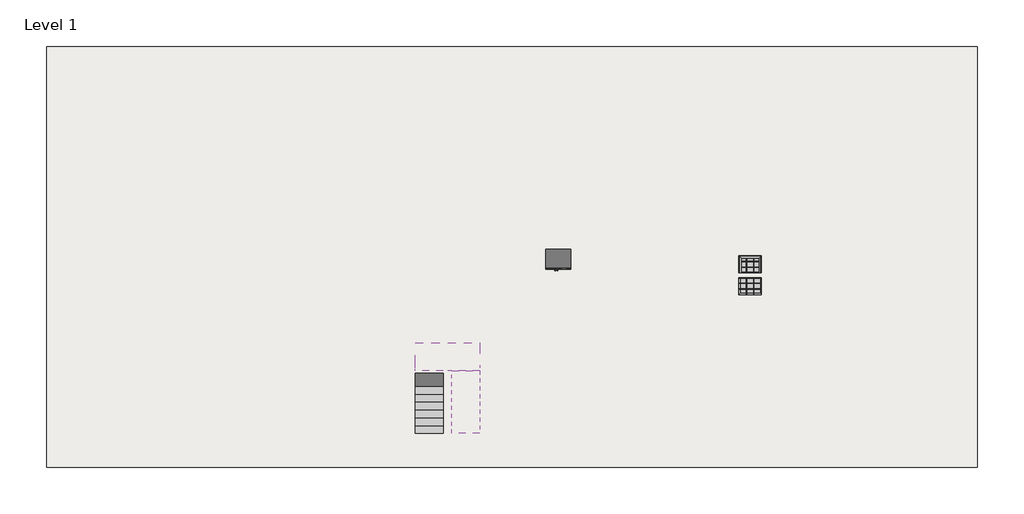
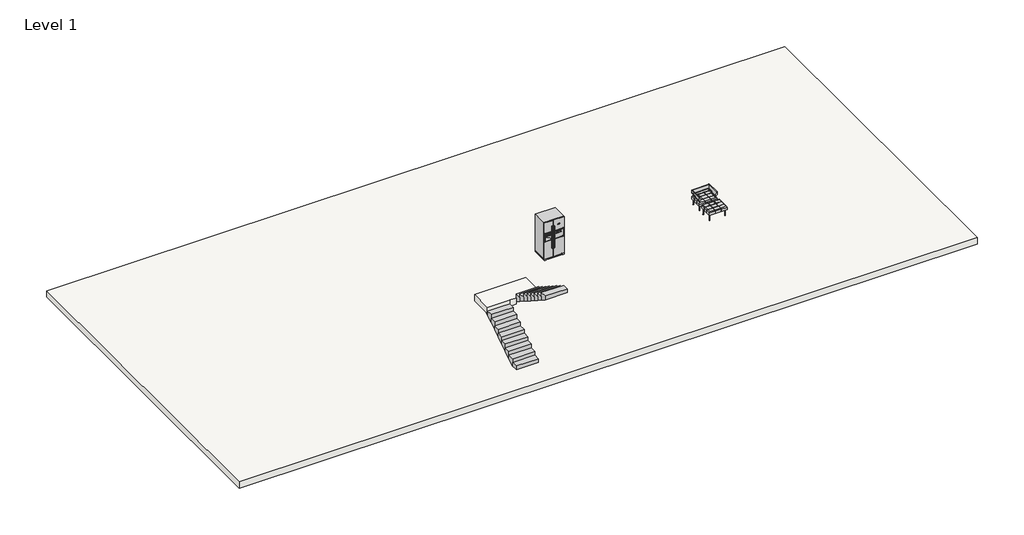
# One storey, incomplete: 2 furniture elements, 2 slabs, 2 stair flights, 1 proxy.
"""IFC4 building model written with IfcOpenShell, lengths in millimetres."""

from ifc_helpers import new_model, si_unit, frame, origin, place, context, project, spatial, polyline, outline, extrude, faceted_brep, transform, mapped, element, save
from components import white_40978c59, contemporary_bench_aus_ottoman_80d4fd55, contemporary_seating_aus_armchair_88942494, contemporary_seating_aus_armchair_13fb45e9

model = new_model("IFC4")

# Units and contexts
model_context = context("Model", 3, world=origin())
ifc_project = project(units=[si_unit("LENGTHUNIT", "METRE", prefix="MILLI")], contexts=[model_context])

# Site, building, storey
site = spatial("IfcSite", under=ifc_project)
building = spatial("IfcBuilding", under=site)
storey = spatial("IfcBuildingStorey", under=building, Name="Level 1", Elevation=0.0)

# Proxy
placement = place(None, origin())
white_shape = white_40978c59(model_context)
element("IfcBuildingElementProxy", 1, Name="Blocks_Side by Side Refrigerator_F02335EN : White", ObjectType="Blocks_Side by Side Refrigerator_F02335EN : White", at=placement, inside=storey, context=model_context, shape_type="MappedRepresentation", body=[
    mapped(white_shape, transform((23774.8594645, 76.3604949, 0.0), x_axis=(1.0, 0.0, 0.0), y_axis=(0.0, 1.0, 0.0), z_axis=(0.0, 0.0, 1.0))),
])

# Furniture
contemporary_bench_aus_ottoman_shape = contemporary_bench_aus_ottoman_80d4fd55(model_context)
element("IfcFurniture", 2, ObjectType="Contemporary Bench (AUS) : Ottoman", at=placement, inside=storey, context=model_context, shape_type="MappedRepresentation", body=[
    mapped(contemporary_bench_aus_ottoman_shape, transform((30495.5986465, -933.2282161, 0.0), x_axis=(1.0, 0.0, 0.0), y_axis=(0.0, 1.0, 0.0), z_axis=(0.0, 0.0, 1.0))),
])
contemporary_seating_aus_armchair_shape = contemporary_seating_aus_armchair_88942494(model_context)
contemporary_seating_aus_armchair_2_shape = contemporary_seating_aus_armchair_13fb45e9(model_context)
element("IfcFurniture", 3, ObjectType="Contemporary Seating (AUS) : Armchair", at=placement, inside=storey, context=model_context, shape_type="MappedRepresentation", body=[
    mapped(contemporary_seating_aus_armchair_shape, transform((30495.5986465, -155.1312479, 0.0), x_axis=(1.0, 0.0, 0.0), y_axis=(0.0, 1.0, 0.0), z_axis=(0.0, 0.0, 1.0))),
    mapped(contemporary_seating_aus_armchair_2_shape, transform((30495.5986465, -155.1312479, 0.0), x_axis=(1.0, 0.0, 0.0), y_axis=(0.0, 1.0, 0.0), z_axis=(0.0, 0.0, 1.0))),
])

# Slabs
element("IfcSlab", 4, ObjectType="300 mm Thickness", at=placement, inside=storey, context=model_context, shape_type="Brep", body=[
    faceted_brep([(18674.8594645, -4243.6395051, 1613.6470588), (19674.8594645, -4243.6395051, 1613.6470588), (19974.8594645, -4243.6395051, 1613.6470588), (20974.8594645, -4243.6395051, 1613.6470588), (20974.8594645, -4053.2973641, 1613.6470588), (20974.8594645, -3243.6395051, 1613.6470588), (18674.8594645, -3243.6395051, 1613.6470588), (18674.8594645, -4153.9816462, 1613.6470588), (18674.8594645, -4243.6395051, 1434.3529412), (18674.8594645, -4243.6395051, 1256.235892), (19674.8594645, -4243.6395051, 1256.235892), (19674.8594645, -4243.6395051, 1313.6470588), (19974.8594645, -4243.6395051, 1313.6470588), (19974.8594645, -4243.6395051, 1435.5300096), (20974.8594645, -4243.6395051, 1435.5300096), (20974.8594645, -4053.2973641, 1313.6470588), (20974.8594645, -3243.6395051, 1313.6470588), (18674.8594645, -3243.6395051, 1313.6470588), (18674.8594645, -4153.9816462, 1313.6470588), (19974.8594645, -4053.2973641, 1313.6470588), (19674.8594645, -4153.9816462, 1313.6470588)], [[[0, 1, 2, 3, 4, 5, 6, 7]], [[1, 0, 8, 9, 10, 11]], [[2, 1, 11, 12, 13]], [[3, 2, 13, 14]], [[3, 14, 15, 16, 5, 4]], [[6, 5, 16, 17]], [[9, 8, 0, 7, 6, 17, 18]], [[19, 12, 11, 20, 18, 17, 16, 15]], [[12, 19, 13]], [[18, 20, 10, 9]], [[20, 11, 10]], [[19, 15, 14, 13]]]),
])
element("IfcSlab", 5, ObjectType="FLOOR 1", at=placement, inside=storey, context=model_context, shape_type="SweptSolid", body=[
    extrude(outline(polyline([(5522.4313172, 7313.0661208), (38722.4313172, 7313.0661208), (38722.4313172, -7686.9338792), (5522.4313172, -7686.9338792), (5522.4313172, 7313.0661208)])), frame((0.0, 0.0, -300.0), z_axis=(0.0, 0.0, 1.0), x_axis=(1.0, 0.0, 0.0)), (0.0, 0.0, 1.0), 300.0),
])

# Stair flights
element("IfcStairFlight", 6, ObjectType="Monolithic Run", at=placement, inside=storey, context=model_context, shape_type="Brep", body=[
    faceted_brep([(18674.8594645, -6203.6395051, 179.2941176), (18674.8594645, -6483.6395051, 179.2941176), (19674.8594645, -6483.6395051, 179.2941176), (19674.8594645, -6203.6395051, 179.2941176), (18674.8594645, -6203.6395051, 1.1770685), (18674.8594645, -6205.4777091, 0.0), (18674.8594645, -6483.6395051, 0.0), (19674.8594645, -6483.6395051, 0.0), (19674.8594645, -6205.4777091, 0.0), (19674.8594645, -6203.6395051, 1.1770685), (18674.8594645, -5923.6395051, 358.5882353), (18674.8594645, -6203.6395051, 358.5882353), (19674.8594645, -6203.6395051, 358.5882353), (19674.8594645, -5923.6395051, 358.5882353), (18674.8594645, -5923.6395051, 180.4711861), (19674.8594645, -5923.6395051, 180.4711861), (18674.8594645, -5643.6395051, 537.8823529), (18674.8594645, -5923.6395051, 537.8823529), (19674.8594645, -5923.6395051, 537.8823529), (19674.8594645, -5643.6395051, 537.8823529), (18674.8594645, -5643.6395051, 359.7653037), (19674.8594645, -5643.6395051, 359.7653037), (18674.8594645, -5363.6395051, 717.1764706), (18674.8594645, -5643.6395051, 717.1764706), (19674.8594645, -5643.6395051, 717.1764706), (19674.8594645, -5363.6395051, 717.1764706), (18674.8594645, -5363.6395051, 539.0594214), (19674.8594645, -5363.6395051, 539.0594214), (18674.8594645, -5083.6395051, 896.4705882), (18674.8594645, -5363.6395051, 896.4705882), (19674.8594645, -5363.6395051, 896.4705882), (19674.8594645, -5083.6395051, 896.4705882), (18674.8594645, -5083.6395051, 718.353539), (19674.8594645, -5083.6395051, 718.353539), (18674.8594645, -4803.6395051, 1075.7647059), (18674.8594645, -5083.6395051, 1075.7647059), (19674.8594645, -5083.6395051, 1075.7647059), (19674.8594645, -4803.6395051, 1075.7647059), (18674.8594645, -4803.6395051, 897.6476567), (19674.8594645, -4803.6395051, 897.6476567), (18674.8594645, -4523.6395051, 1255.0588235), (18674.8594645, -4803.6395051, 1255.0588235), (19674.8594645, -4803.6395051, 1255.0588235), (19674.8594645, -4523.6395051, 1255.0588235), (18674.8594645, -4523.6395051, 1076.9417743), (19674.8594645, -4523.6395051, 1076.9417743), (18674.8594645, -4243.6395051, 1434.3529412), (18674.8594645, -4523.6395051, 1434.3529412), (19674.8594645, -4523.6395051, 1434.3529412), (19674.8594645, -4243.6395051, 1434.3529412), (18674.8594645, -4243.6395051, 1256.235892), (19674.8594645, -4243.6395051, 1256.235892), (19674.8594645, -4243.6395051, 1313.6470588)], [[[0, 1, 2, 3]], [[1, 0, 4, 5, 6]], [[2, 1, 6, 7]], [[3, 2, 7, 8, 9]], [[10, 11, 12, 13]], [[11, 10, 14, 4, 0]], [[0, 3, 12, 11]], [[13, 12, 3, 9, 15]], [[16, 17, 18, 19]], [[17, 16, 20, 14, 10]], [[10, 13, 18, 17]], [[19, 18, 13, 15, 21]], [[22, 23, 24, 25]], [[23, 22, 26, 20, 16]], [[16, 19, 24, 23]], [[25, 24, 19, 21, 27]], [[28, 29, 30, 31]], [[29, 28, 32, 26, 22]], [[22, 25, 30, 29]], [[31, 30, 25, 27, 33]], [[34, 35, 36, 37]], [[35, 34, 38, 32, 28]], [[28, 31, 36, 35]], [[37, 36, 31, 33, 39]], [[40, 41, 42, 43]], [[41, 40, 44, 38, 34]], [[34, 37, 42, 41]], [[43, 42, 37, 39, 45]], [[46, 47, 48, 49]], [[47, 46, 50, 44, 40]], [[40, 43, 48, 47]], [[49, 48, 43, 45, 51, 52]], [[46, 49, 52, 51, 50]], [[7, 6, 5, 8]], [[8, 5, 4, 14, 20, 26, 32, 38, 44, 50, 51, 45, 39, 33, 27, 21, 15, 9]]]),
])
element("IfcStairFlight", 7, ObjectType="Monolithic Run", at=placement, inside=storey, context=model_context, shape_type="Brep", body=[
    faceted_brep([(20974.8594645, -4523.6395051, 1792.9411765), (20974.8594645, -4243.6395051, 1792.9411765), (19974.8594645, -4243.6395051, 1792.9411765), (19974.8594645, -4523.6395051, 1792.9411765), (20974.8594645, -4523.6395051, 1614.8241273), (20974.8594645, -4243.6395051, 1435.5300096), (20974.8594645, -4243.6395051, 1613.6470588), (19974.8594645, -4243.6395051, 1435.5300096), (19974.8594645, -4523.6395051, 1614.8241273), (20974.8594645, -4803.6395051, 1972.2352941), (20974.8594645, -4523.6395051, 1972.2352941), (19974.8594645, -4523.6395051, 1972.2352941), (19974.8594645, -4803.6395051, 1972.2352941), (20974.8594645, -4803.6395051, 1794.1182449), (19974.8594645, -4803.6395051, 1794.1182449), (20974.8594645, -5083.6395051, 2151.5294118), (20974.8594645, -4803.6395051, 2151.5294118), (19974.8594645, -4803.6395051, 2151.5294118), (19974.8594645, -5083.6395051, 2151.5294118), (20974.8594645, -5083.6395051, 1973.4123626), (19974.8594645, -5083.6395051, 1973.4123626), (20974.8594645, -5363.6395051, 2330.8235294), (20974.8594645, -5083.6395051, 2330.8235294), (19974.8594645, -5083.6395051, 2330.8235294), (19974.8594645, -5363.6395051, 2330.8235294), (20974.8594645, -5363.6395051, 2152.7064802), (19974.8594645, -5363.6395051, 2152.7064802), (20974.8594645, -5643.6395051, 2510.1176471), (20974.8594645, -5363.6395051, 2510.1176471), (19974.8594645, -5363.6395051, 2510.1176471), (19974.8594645, -5643.6395051, 2510.1176471), (20974.8594645, -5643.6395051, 2332.0005979), (19974.8594645, -5643.6395051, 2332.0005979), (20974.8594645, -5923.6395051, 2689.4117647), (20974.8594645, -5643.6395051, 2689.4117647), (19974.8594645, -5643.6395051, 2689.4117647), (19974.8594645, -5923.6395051, 2689.4117647), (20974.8594645, -5923.6395051, 2511.2947155), (19974.8594645, -5923.6395051, 2511.2947155), (20974.8594645, -6203.6395051, 2868.7058824), (20974.8594645, -5923.6395051, 2868.7058824), (19974.8594645, -5923.6395051, 2868.7058824), (19974.8594645, -6203.6395051, 2868.7058824), (20974.8594645, -6203.6395051, 2690.5888332), (19974.8594645, -6203.6395051, 2690.5888332), (20974.8594645, -6483.6395051, 3048.0), (20974.8594645, -6203.6395051, 3048.0), (19974.8594645, -6203.6395051, 3048.0), (19974.8594645, -6483.6395051, 3048.0), (20974.8594645, -6483.6395051, 2869.8829508), (19974.8594645, -6483.6395051, 2869.8829508)], [[[0, 1, 2, 3]], [[1, 0, 4, 5, 6]], [[2, 1, 6, 5, 7]], [[3, 2, 7, 8]], [[9, 10, 11, 12]], [[10, 9, 13, 4, 0]], [[11, 10, 0, 3]], [[12, 11, 3, 8, 14]], [[15, 16, 17, 18]], [[16, 15, 19, 13, 9]], [[17, 16, 9, 12]], [[18, 17, 12, 14, 20]], [[21, 22, 23, 24]], [[22, 21, 25, 19, 15]], [[23, 22, 15, 18]], [[24, 23, 18, 20, 26]], [[27, 28, 29, 30]], [[28, 27, 31, 25, 21]], [[29, 28, 21, 24]], [[30, 29, 24, 26, 32]], [[33, 34, 35, 36]], [[34, 33, 37, 31, 27]], [[35, 34, 27, 30]], [[36, 35, 30, 32, 38]], [[39, 40, 41, 42]], [[40, 39, 43, 37, 33]], [[41, 40, 33, 36]], [[42, 41, 36, 38, 44]], [[45, 46, 47, 48]], [[46, 45, 49, 43, 39]], [[47, 46, 39, 42]], [[48, 47, 42, 44, 50]], [[45, 48, 50, 49]], [[5, 4, 13, 19, 25, 31, 37, 43, 49, 50, 44, 38, 32, 26, 20, 14, 8, 7]]]),
])

save(model, "model.ifc")
